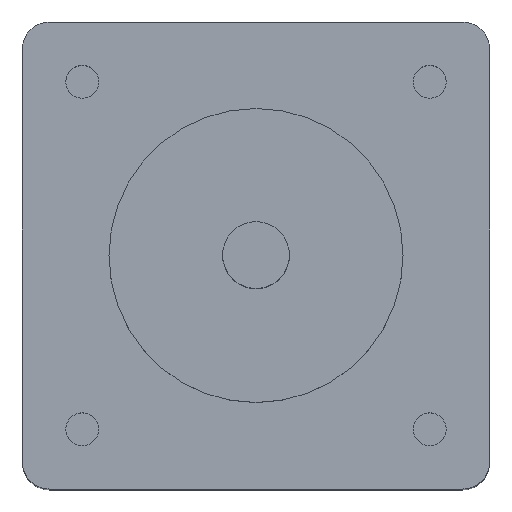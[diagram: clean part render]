
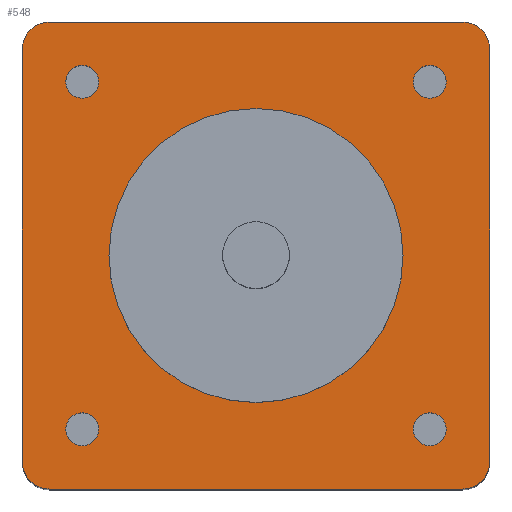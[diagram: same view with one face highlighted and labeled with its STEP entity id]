
A CAD part, top view. The second image highlights one B-rep face of the part: STEP entity #548.
In plain terms, the highlighted planar face has unit normal (0, 0, 1).
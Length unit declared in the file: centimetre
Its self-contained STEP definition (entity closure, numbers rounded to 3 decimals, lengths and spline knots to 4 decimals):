
#196=VERTEX_POINT('',#2421);
#198=VERTEX_POINT('',#2427);
#200=VERTEX_POINT('',#2433);
#202=VERTEX_POINT('',#2439);
#206=VERTEX_POINT('',#2451);
#223=VERTEX_POINT('',#2503);
#224=VERTEX_POINT('',#2505);
#225=VERTEX_POINT('',#2509);
#226=VERTEX_POINT('',#2513);
#227=VERTEX_POINT('',#2517);
#228=VERTEX_POINT('',#2522);
#229=VERTEX_POINT('',#2526);
#230=VERTEX_POINT('',#2530);
#238=EDGE_CURVE('',#196,#196,#729,.T.);
#240=EDGE_CURVE('',#198,#198,#731,.T.);
#242=EDGE_CURVE('',#200,#200,#733,.T.);
#244=EDGE_CURVE('',#202,#202,#735,.T.);
#248=EDGE_CURVE('',#206,#206,#739,.T.);
#274=EDGE_CURVE('',#223,#224,#756,.T.);
#277=EDGE_CURVE('',#225,#223,#828,.T.);
#279=EDGE_CURVE('',#226,#225,#757,.T.);
#281=EDGE_CURVE('',#227,#226,#831,.T.);
#282=EDGE_CURVE('',#224,#228,#832,.T.);
#284=EDGE_CURVE('',#228,#229,#758,.T.);
#286=EDGE_CURVE('',#229,#230,#835,.T.);
#288=EDGE_CURVE('',#230,#227,#759,.T.);
#392=ORIENTED_EDGE('',*,*,#238,.T.);
#393=ORIENTED_EDGE('',*,*,#240,.T.);
#394=ORIENTED_EDGE('',*,*,#242,.T.);
#395=ORIENTED_EDGE('',*,*,#244,.T.);
#396=ORIENTED_EDGE('',*,*,#248,.T.);
#397=ORIENTED_EDGE('',*,*,#279,.F.);
#398=ORIENTED_EDGE('',*,*,#281,.F.);
#399=ORIENTED_EDGE('',*,*,#288,.F.);
#400=ORIENTED_EDGE('',*,*,#286,.F.);
#401=ORIENTED_EDGE('',*,*,#284,.F.);
#402=ORIENTED_EDGE('',*,*,#282,.F.);
#403=ORIENTED_EDGE('',*,*,#274,.F.);
#404=ORIENTED_EDGE('',*,*,#277,.F.);
#453=EDGE_LOOP('',(#392));
#454=EDGE_LOOP('',(#393));
#455=EDGE_LOOP('',(#394));
#456=EDGE_LOOP('',(#395));
#457=EDGE_LOOP('',(#396));
#458=EDGE_LOOP('',(#397,#398,#399,#400,#401,#402,#403,#404));
#507=FACE_BOUND('',#453,.T.);
#508=FACE_BOUND('',#454,.T.);
#509=FACE_BOUND('',#455,.T.);
#510=FACE_BOUND('',#456,.T.);
#511=FACE_BOUND('',#457,.T.);
#512=FACE_BOUND('',#458,.T.);
#548=ADVANCED_FACE('',(#507,#508,#509,#510,#511,#512),#1853,.T.);
#729=CIRCLE('',#1691,0.123);
#731=CIRCLE('',#1695,0.123);
#733=CIRCLE('',#1699,0.123);
#735=CIRCLE('',#1703,0.123);
#739=CIRCLE('',#1711,1.1);
#756=CIRCLE('',#1738,0.2);
#757=CIRCLE('',#1741,0.2);
#758=CIRCLE('',#1746,0.2);
#759=CIRCLE('',#1749,0.2);
#828=LINE('',#2510,#1820);
#831=LINE('',#2518,#1823);
#832=LINE('',#2521,#1824);
#835=LINE('',#2529,#1827);
#1691=AXIS2_PLACEMENT_3D('',#2420,#2029,#2030);
#1695=AXIS2_PLACEMENT_3D('',#2426,#2036,#2037);
#1699=AXIS2_PLACEMENT_3D('',#2432,#2043,#2044);
#1703=AXIS2_PLACEMENT_3D('',#2438,#2050,#2051);
#1711=AXIS2_PLACEMENT_3D('',#2450,#2064,#2065);
#1738=AXIS2_PLACEMENT_3D('',#2504,#2122,#2123);
#1741=AXIS2_PLACEMENT_3D('',#2514,#2131,#2132);
#1746=AXIS2_PLACEMENT_3D('',#2525,#2142,#2143);
#1749=AXIS2_PLACEMENT_3D('',#2533,#2150,#2151);
#1750=AXIS2_PLACEMENT_3D('',#2534,#2152,$);
#1820=VECTOR('',#2127,1.);
#1823=VECTOR('',#2135,1.);
#1824=VECTOR('',#2138,1.);
#1827=VECTOR('',#2146,1.);
#1853=PLANE('',#1750);
#2029=DIRECTION('',(0.,0.,-1.));
#2030=DIRECTION('',(0.,0.123,0.));
#2036=DIRECTION('',(0.,0.,-1.));
#2037=DIRECTION('',(0.,0.123,0.));
#2043=DIRECTION('',(0.,0.,-1.));
#2044=DIRECTION('',(0.,0.123,0.));
#2050=DIRECTION('',(0.,0.,-1.));
#2051=DIRECTION('',(0.,0.123,0.));
#2064=DIRECTION('',(0.,0.,-1.));
#2065=DIRECTION('',(1.1,0.,0.));
#2122=DIRECTION('',(0.,0.,-1.));
#2123=DIRECTION('',(0.2,0.,0.));
#2127=DIRECTION('',(-1.,0.,0.));
#2131=DIRECTION('',(0.,0.,-1.));
#2132=DIRECTION('',(0.2,0.,0.));
#2135=DIRECTION('',(0.,-1.,0.));
#2138=DIRECTION('',(0.,1.,0.));
#2142=DIRECTION('',(0.,0.,-1.));
#2143=DIRECTION('',(0.2,0.,0.));
#2146=DIRECTION('',(1.,0.,0.));
#2150=DIRECTION('',(0.,0.,-1.));
#2151=DIRECTION('',(0.2,0.,0.));
#2152=DIRECTION('',(0.,0.,1.));
#2420=CARTESIAN_POINT('',(-3.0475,0.4475,4.));
#2421=CARTESIAN_POINT('',(-3.0475,0.5704,4.));
#2426=CARTESIAN_POINT('',(-0.4476,0.4476,4.));
#2427=CARTESIAN_POINT('',(-0.4476,0.5705,4.));
#2432=CARTESIAN_POINT('',(-0.4475,3.0475,4.));
#2433=CARTESIAN_POINT('',(-0.4475,3.1704,4.));
#2438=CARTESIAN_POINT('',(-3.0475,3.0475,4.));
#2439=CARTESIAN_POINT('',(-3.0475,3.1704,4.));
#2450=CARTESIAN_POINT('',(-1.7475,1.7475,4.));
#2451=CARTESIAN_POINT('',(-0.6475,1.7475,4.));
#2503=CARTESIAN_POINT('',(-3.295,0.,4.));
#2504=CARTESIAN_POINT('',(-3.295,0.2,4.));
#2505=CARTESIAN_POINT('',(-3.495,0.2,4.));
#2509=CARTESIAN_POINT('',(-0.2,0.,4.));
#2510=CARTESIAN_POINT('',(-3.295,0.,4.));
#2513=CARTESIAN_POINT('',(0.,0.2,4.));
#2514=CARTESIAN_POINT('',(-0.2,0.2,4.));
#2517=CARTESIAN_POINT('',(0.,3.295,4.));
#2518=CARTESIAN_POINT('',(0.,0.2,4.));
#2521=CARTESIAN_POINT('',(-3.495,3.295,4.));
#2522=CARTESIAN_POINT('',(-3.495,3.295,4.));
#2525=CARTESIAN_POINT('',(-3.295,3.295,4.));
#2526=CARTESIAN_POINT('',(-3.295,3.495,4.));
#2529=CARTESIAN_POINT('',(-0.2,3.495,4.));
#2530=CARTESIAN_POINT('',(-0.2,3.495,4.));
#2533=CARTESIAN_POINT('',(-0.2,3.295,4.));
#2534=CARTESIAN_POINT('',(-1.7475,1.7475,4.));
